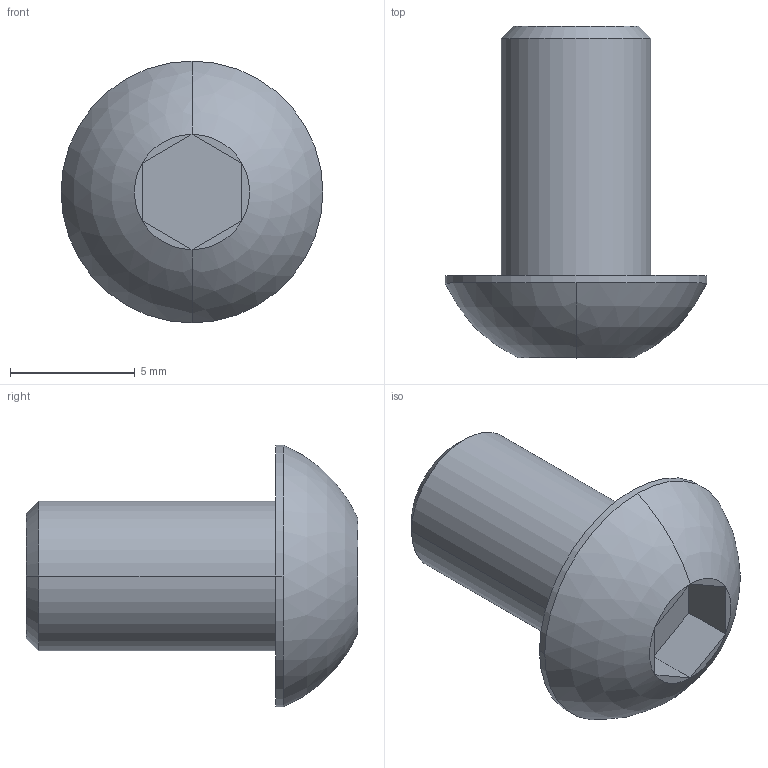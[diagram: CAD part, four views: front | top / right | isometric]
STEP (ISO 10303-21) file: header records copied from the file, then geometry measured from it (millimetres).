
FILE_DESCRIPTION((''),'2;1');
FILE_NAME('VTBEI0610','2002-12-27T',('Lipro doo'),('Lipro d.o.o.'),'PRO/ENGINEER BY PARAMETRIC TECHNOLOGY CORPORATION, 2001150','PRO/ENGINEER BY PARAMETRIC TECHNOLOGY CORPORATION, 2001150','');
FILE_SCHEMA(('CONFIG_CONTROL_DESIGN'));
Length unit declared in the file: millimetre
Products named in the file (1): VTBEI0610
Bounding box: 10.5 x 13.3 x 10.5 mm (x, y, z)
Volume: 446.8 mm3; surface area: 589.1 mm2
Topology: 1 solids, 2 shells, 25 faces, 50 edges, 28 vertices
Faces by surface type: plane 15, cylinder 6, cone 2, sphere 2
Entity records: 684 total; most frequent: DIRECTION 126, CARTESIAN_POINT 104, ORIENTED_EDGE 96, AXIS2_PLACEMENT_3D 50, EDGE_CURVE 50, VERTEX_POINT 28, VECTOR 26, LINE 26
